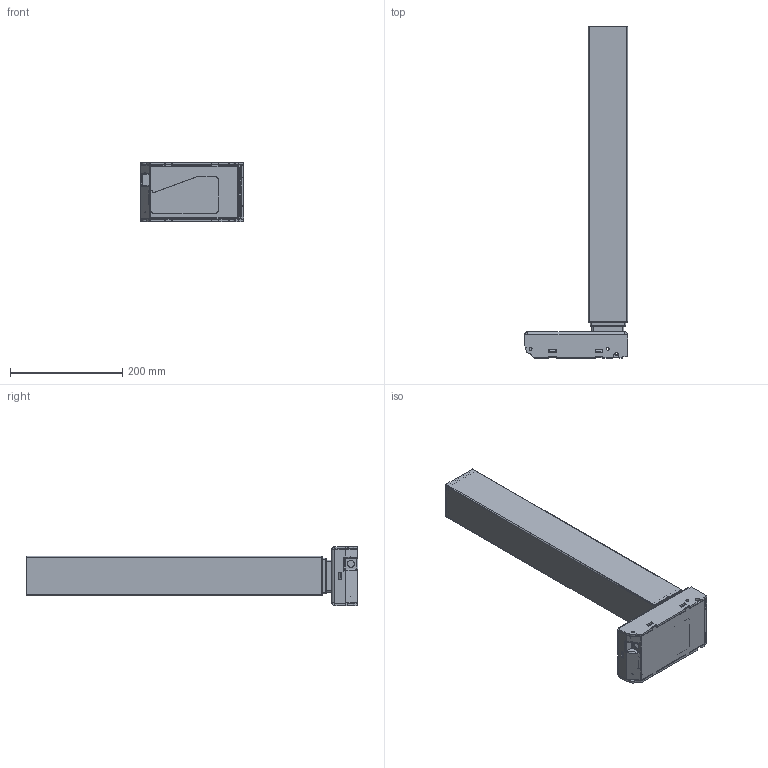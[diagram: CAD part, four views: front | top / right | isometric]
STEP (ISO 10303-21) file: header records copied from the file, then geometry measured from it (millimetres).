
FILE_DESCRIPTION (( 'STEP AP203' ), '1' );
FILE_NAME ('TL4S.STEP', '2024-04-17T09:00:21', ( '' ), ( '' ), 'SwSTEP 2.0', 'SolidWorks 2015', '' );
FILE_SCHEMA (( 'CONFIG_CONTROL_DESIGN' ));
Products named in the file (2): TL4S
Bounding box: 183.6 x 590.9 x 105.5 mm (x, y, z)
Volume: 788570.4 mm3; surface area: 917581.5 mm2
Topology: 20 solids, 20 shells, 2315 faces, 5884 edges, 3505 vertices
Faces by surface type: cylinder 973, plane 753, torus 294, bspline 158, sphere 93, cone 44
Entity records: 78507 total; most frequent: CARTESIAN_POINT 24047, ORIENTED_EDGE 11598, DIRECTION 11341, EDGE_CURVE 5799, AXIS2_PLACEMENT_3D 4142, VERTEX_POINT 3505, LINE 3057, VECTOR 3057
